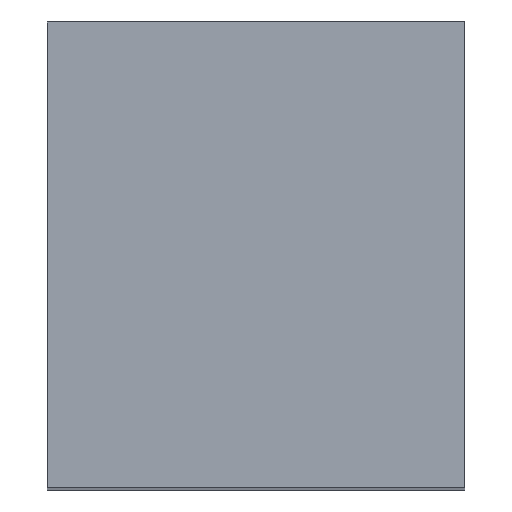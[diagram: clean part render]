
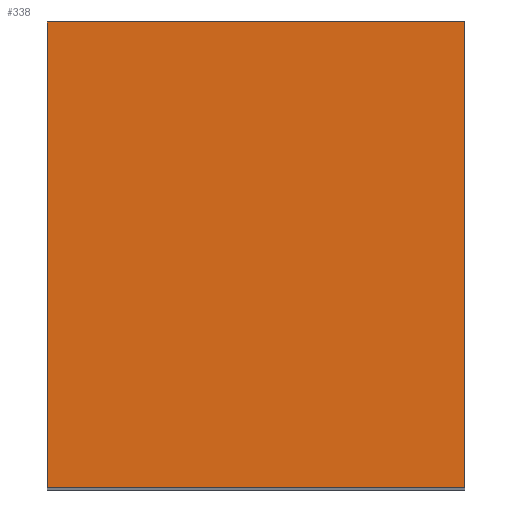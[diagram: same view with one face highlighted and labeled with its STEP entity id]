
A CAD part, top view. The second image highlights one B-rep face of the part: STEP entity #338.
In plain terms, the highlighted planar face has unit normal (0, 0, 1).
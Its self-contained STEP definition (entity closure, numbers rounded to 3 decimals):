
#24 = VERTEX_POINT('',#25);
#25 = CARTESIAN_POINT('',(-41.2,1.45,5.05)
  );
#32 = PLANE('',#33);
#33 = AXIS2_PLACEMENT_3D('',#34,#35,#36);
#34 = CARTESIAN_POINT('',(-41.2,1.45,-8.65
    ));
#35 = DIRECTION('',(1.,0.,-0.));
#36 = DIRECTION('',(0.,0.,1.));
#44 = PLANE('',#45);
#45 = AXIS2_PLACEMENT_3D('',#46,#47,#48);
#46 = CARTESIAN_POINT('',(-41.2,1.45,-8.65
    ));
#47 = DIRECTION('',(-0.,1.,0.));
#48 = DIRECTION('',(0.,0.,1.));
#85 = VERTEX_POINT('',#86);
#86 = CARTESIAN_POINT('',(-41.2,5.35,5.05)
  );
#100 = PLANE('',#101);
#101 = AXIS2_PLACEMENT_3D('',#102,#103,#104);
#102 = CARTESIAN_POINT('',(-41.2,5.35,
    -8.65));
#103 = DIRECTION('',(-0.,1.,0.));
#104 = DIRECTION('',(0.,0.,1.));
#112 = EDGE_CURVE('',#24,#85,#113,.T.);
#113 = SURFACE_CURVE('',#114,(#118,#125),.PCURVE_S1.);
#114 = LINE('',#115,#116);
#115 = CARTESIAN_POINT('',(-41.2,1.45,5.05
    ));
#116 = VECTOR('',#117,1.);
#117 = DIRECTION('',(-0.,1.,0.));
#118 = PCURVE('',#32,#119);
#119 = DEFINITIONAL_REPRESENTATION('',(#120),#124);
#120 = LINE('',#121,#122);
#121 = CARTESIAN_POINT('',(13.7,0.));
#122 = VECTOR('',#123,1.);
#123 = DIRECTION('',(0.,-1.));
#124 = ( GEOMETRIC_REPRESENTATION_CONTEXT(2) 
PARAMETRIC_REPRESENTATION_CONTEXT() REPRESENTATION_CONTEXT('2D SPACE',''
  ) );
#125 = PCURVE('',#126,#131);
#126 = PLANE('',#127);
#127 = AXIS2_PLACEMENT_3D('',#128,#129,#130);
#128 = CARTESIAN_POINT('',(-41.2,1.45,5.05
    ));
#129 = DIRECTION('',(0.,0.,1.));
#130 = DIRECTION('',(1.,0.,-0.));
#131 = DEFINITIONAL_REPRESENTATION('',(#132),#136);
#132 = LINE('',#133,#134);
#133 = CARTESIAN_POINT('',(0.,0.));
#134 = VECTOR('',#135,1.);
#135 = DIRECTION('',(0.,1.));
#136 = ( GEOMETRIC_REPRESENTATION_CONTEXT(2) 
PARAMETRIC_REPRESENTATION_CONTEXT() REPRESENTATION_CONTEXT('2D SPACE',''
  ) );
#144 = VERTEX_POINT('',#145);
#145 = CARTESIAN_POINT('',(-37.7,1.45,5.05
    ));
#152 = PLANE('',#153);
#153 = AXIS2_PLACEMENT_3D('',#154,#155,#156);
#154 = CARTESIAN_POINT('',(-37.7,1.45,
    -8.65));
#155 = DIRECTION('',(1.,0.,-0.));
#156 = DIRECTION('',(0.,0.,1.));
#195 = VERTEX_POINT('',#196);
#196 = CARTESIAN_POINT('',(-37.7,5.35,5.05
    ));
#217 = EDGE_CURVE('',#144,#195,#218,.T.);
#218 = SURFACE_CURVE('',#219,(#223,#230),.PCURVE_S1.);
#219 = LINE('',#220,#221);
#220 = CARTESIAN_POINT('',(-37.7,1.45,5.05
    ));
#221 = VECTOR('',#222,1.);
#222 = DIRECTION('',(-0.,1.,0.));
#223 = PCURVE('',#152,#224);
#224 = DEFINITIONAL_REPRESENTATION('',(#225),#229);
#225 = LINE('',#226,#227);
#226 = CARTESIAN_POINT('',(13.7,0.));
#227 = VECTOR('',#228,1.);
#228 = DIRECTION('',(0.,-1.));
#229 = ( GEOMETRIC_REPRESENTATION_CONTEXT(2) 
PARAMETRIC_REPRESENTATION_CONTEXT() REPRESENTATION_CONTEXT('2D SPACE',''
  ) );
#230 = PCURVE('',#126,#231);
#231 = DEFINITIONAL_REPRESENTATION('',(#232),#236);
#232 = LINE('',#233,#234);
#233 = CARTESIAN_POINT('',(3.5,0.));
#234 = VECTOR('',#235,1.);
#235 = DIRECTION('',(0.,1.));
#236 = ( GEOMETRIC_REPRESENTATION_CONTEXT(2) 
PARAMETRIC_REPRESENTATION_CONTEXT() REPRESENTATION_CONTEXT('2D SPACE',''
  ) );
#263 = EDGE_CURVE('',#24,#144,#264,.T.);
#264 = SURFACE_CURVE('',#265,(#269,#276),.PCURVE_S1.);
#265 = LINE('',#266,#267);
#266 = CARTESIAN_POINT('',(-41.2,1.45,5.05
    ));
#267 = VECTOR('',#268,1.);
#268 = DIRECTION('',(1.,0.,-0.));
#269 = PCURVE('',#44,#270);
#270 = DEFINITIONAL_REPRESENTATION('',(#271),#275);
#271 = LINE('',#272,#273);
#272 = CARTESIAN_POINT('',(13.7,0.));
#273 = VECTOR('',#274,1.);
#274 = DIRECTION('',(0.,1.));
#275 = ( GEOMETRIC_REPRESENTATION_CONTEXT(2) 
PARAMETRIC_REPRESENTATION_CONTEXT() REPRESENTATION_CONTEXT('2D SPACE',''
  ) );
#276 = PCURVE('',#126,#277);
#277 = DEFINITIONAL_REPRESENTATION('',(#278),#282);
#278 = LINE('',#279,#280);
#279 = CARTESIAN_POINT('',(0.,0.));
#280 = VECTOR('',#281,1.);
#281 = DIRECTION('',(1.,0.));
#282 = ( GEOMETRIC_REPRESENTATION_CONTEXT(2) 
PARAMETRIC_REPRESENTATION_CONTEXT() REPRESENTATION_CONTEXT('2D SPACE',''
  ) );
#310 = EDGE_CURVE('',#85,#195,#311,.T.);
#311 = SURFACE_CURVE('',#312,(#316,#323),.PCURVE_S1.);
#312 = LINE('',#313,#314);
#313 = CARTESIAN_POINT('',(-41.2,5.35,5.05
    ));
#314 = VECTOR('',#315,1.);
#315 = DIRECTION('',(1.,0.,-0.));
#316 = PCURVE('',#100,#317);
#317 = DEFINITIONAL_REPRESENTATION('',(#318),#322);
#318 = LINE('',#319,#320);
#319 = CARTESIAN_POINT('',(13.7,0.));
#320 = VECTOR('',#321,1.);
#321 = DIRECTION('',(0.,1.));
#322 = ( GEOMETRIC_REPRESENTATION_CONTEXT(2) 
PARAMETRIC_REPRESENTATION_CONTEXT() REPRESENTATION_CONTEXT('2D SPACE',''
  ) );
#323 = PCURVE('',#126,#324);
#324 = DEFINITIONAL_REPRESENTATION('',(#325),#329);
#325 = LINE('',#326,#327);
#326 = CARTESIAN_POINT('',(0.,3.9));
#327 = VECTOR('',#328,1.);
#328 = DIRECTION('',(1.,0.));
#329 = ( GEOMETRIC_REPRESENTATION_CONTEXT(2) 
PARAMETRIC_REPRESENTATION_CONTEXT() REPRESENTATION_CONTEXT('2D SPACE',''
  ) );
#338 = ADVANCED_FACE('',(#339),#126,.T.);
#339 = FACE_BOUND('',#340,.T.);
#340 = EDGE_LOOP('',(#341,#342,#343,#344));
#341 = ORIENTED_EDGE('',*,*,#112,.F.);
#342 = ORIENTED_EDGE('',*,*,#263,.T.);
#343 = ORIENTED_EDGE('',*,*,#217,.T.);
#344 = ORIENTED_EDGE('',*,*,#310,.F.);
